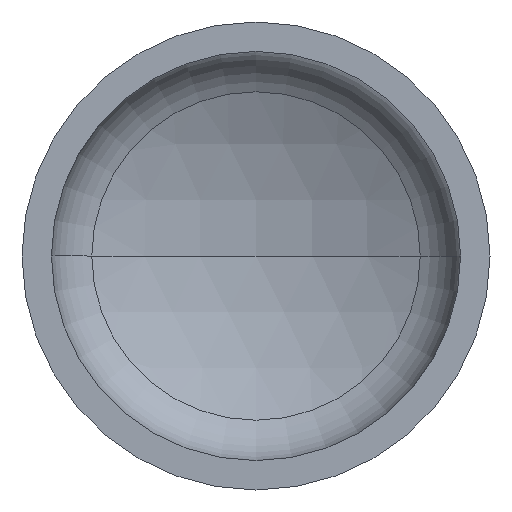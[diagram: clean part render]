
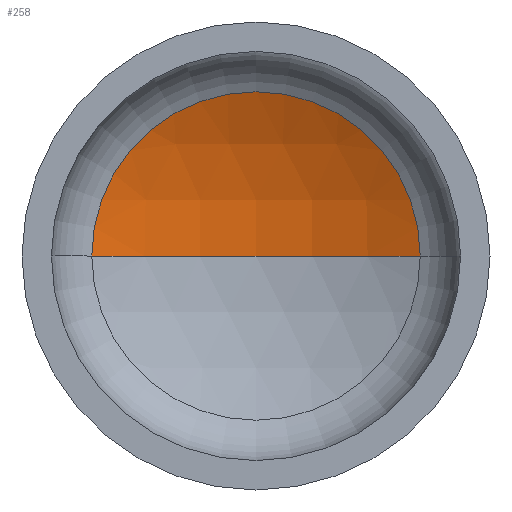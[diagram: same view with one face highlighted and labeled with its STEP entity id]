
A CAD part, front view. The second image highlights one B-rep face of the part: STEP entity #258.
In plain terms, the highlighted spherical face has radius 1120 mm.
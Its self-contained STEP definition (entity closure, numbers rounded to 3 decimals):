
#5 = AXIS2_PLACEMENT_3D ( 'NONE', #111, #319, #150 ) ;
#6 = AXIS2_PLACEMENT_3D ( 'NONE', #407, #410, #263 ) ;
#7 = DIRECTION ( 'NONE',  ( 0., 0., -1. ) ) ;
#11 = CARTESIAN_POINT ( 'NONE',  ( 0., 406.725, 0. ) ) ;
#12 = AXIS2_PLACEMENT_3D ( 'NONE', #369, #257, #306 ) ;
#29 = AXIS2_PLACEMENT_3D ( 'NONE', #238, #7, #38 ) ;
#38 = DIRECTION ( 'NONE',  ( -1., 0., 0. ) ) ;
#39 = VERTEX_POINT ( 'NONE', #249 ) ;
#91 = CIRCLE ( 'NONE', #5, 1120. ) ;
#103 = ORIENTED_EDGE ( 'NONE', *, *, #362, .T. ) ;
#111 = CARTESIAN_POINT ( 'NONE',  ( 0., -713.275, 0. ) ) ;
#133 = VERTEX_POINT ( 'NONE', #181 ) ;
#150 = DIRECTION ( 'NONE',  ( -1., 0., 0. ) ) ;
#154 = SPHERICAL_SURFACE ( 'NONE', #29, 1120. ) ;
#159 = ORIENTED_EDGE ( 'NONE', *, *, #367, .T. ) ;
#169 = ORIENTED_EDGE ( 'NONE', *, *, #346, .F. ) ;
#181 = CARTESIAN_POINT ( 'NONE',  ( -491.315, 293.209, 0. ) ) ;
#233 = VERTEX_POINT ( 'NONE', #11 ) ;
#238 = CARTESIAN_POINT ( 'NONE',  ( 0., -713.275, 0. ) ) ;
#242 = FACE_OUTER_BOUND ( 'NONE', #403, .T. ) ;
#249 = CARTESIAN_POINT ( 'NONE',  ( 491.315, 293.209, 0. ) ) ;
#257 = DIRECTION ( 'NONE',  ( 0., 0., 1. ) ) ;
#258 = ADVANCED_FACE ( 'NONE', ( #242 ), #154, .F. ) ;
#262 = CIRCLE ( 'NONE', #6, 491.315 ) ;
#263 = DIRECTION ( 'NONE',  ( 1., 0., 0. ) ) ;
#306 = DIRECTION ( 'NONE',  ( 1., 0., 0. ) ) ;
#319 = DIRECTION ( 'NONE',  ( 0., 0., -1. ) ) ;
#346 = EDGE_CURVE ( 'NONE', #233, #133, #393, .T. ) ;
#362 = EDGE_CURVE ( 'NONE', #233, #39, #91, .T. ) ;
#367 = EDGE_CURVE ( 'NONE', #39, #133, #262, .T. ) ;
#369 = CARTESIAN_POINT ( 'NONE',  ( 0., -713.275, 0. ) ) ;
#393 = CIRCLE ( 'NONE', #12, 1120. ) ;
#403 = EDGE_LOOP ( 'NONE', ( #169, #103, #159 ) ) ;
#407 = CARTESIAN_POINT ( 'NONE',  ( 0., 293.209, 0. ) ) ;
#410 = DIRECTION ( 'NONE',  ( 0., -1., 0. ) ) ;
